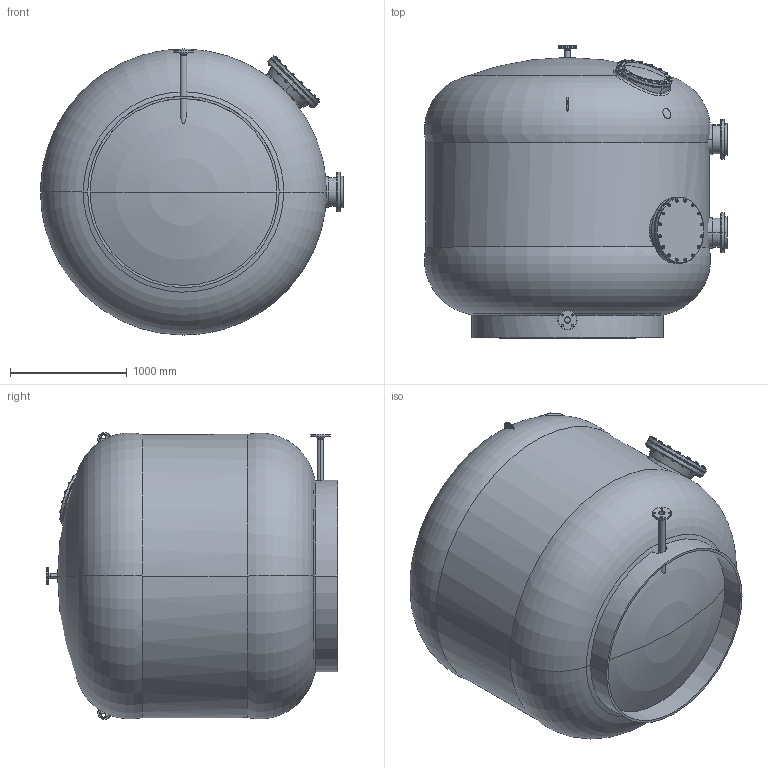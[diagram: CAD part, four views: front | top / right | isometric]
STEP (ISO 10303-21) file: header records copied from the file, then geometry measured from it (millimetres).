
FILE_DESCRIPTION (( 'STEP AP214' ), '1' );
FILE_NAME ('adriatic240c_big.STEP', '2020-11-04T14:55:12', ( '' ), ( '' ), 'SwSTEP 2.0', 'SolidWorks 2019', '' );
FILE_SCHEMA (( 'AUTOMOTIVE_DESIGN' ));
Length unit declared in the file: millimetre
Products named in the file (1): adriatic240c_big
Bounding box: 2594.1 x 2499.76 x 2457.4 mm (x, y, z)
Surface area: 49542765.6 mm2 (no closed solid volume)
Topology: 0 solids, 130 shells, 1915 faces, 4257 edges, 2606 vertices
Faces by surface type: cylinder 633, cone 591, plane 580, torus 95, sphere 8, bspline 8
Entity records: 102701 total; most frequent: CARTESIAN_POINT 39150, DIRECTION 8414, ORIENTED_EDGE 8366, EDGE_CURVE 4215, AXIS2_PLACEMENT_3D 3628, VERTEX_POINT 2604, EDGE_LOOP 2323, UNCERTAINTY_MEASURE_WITH_UNIT 2031
